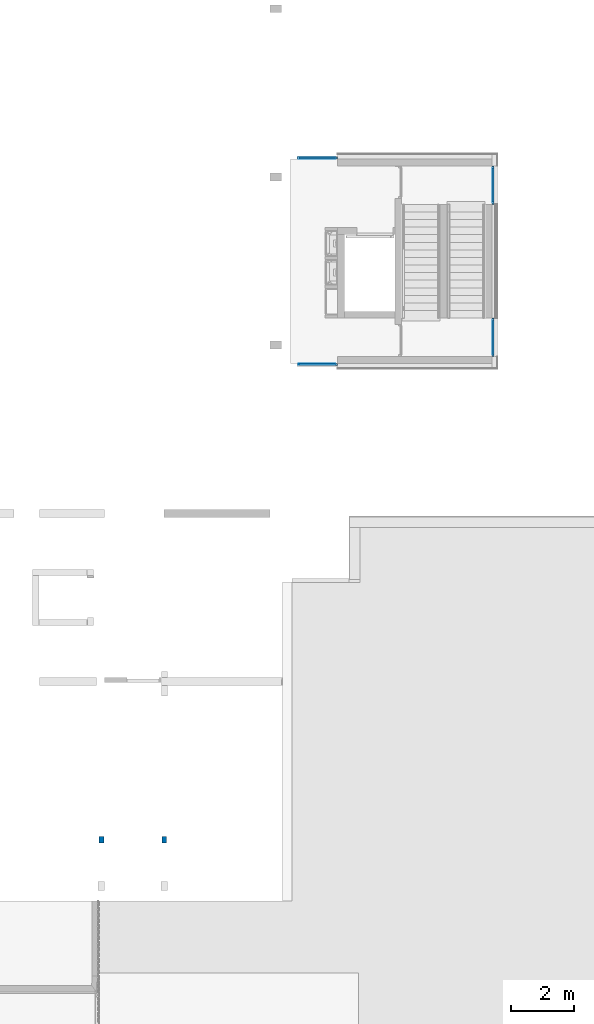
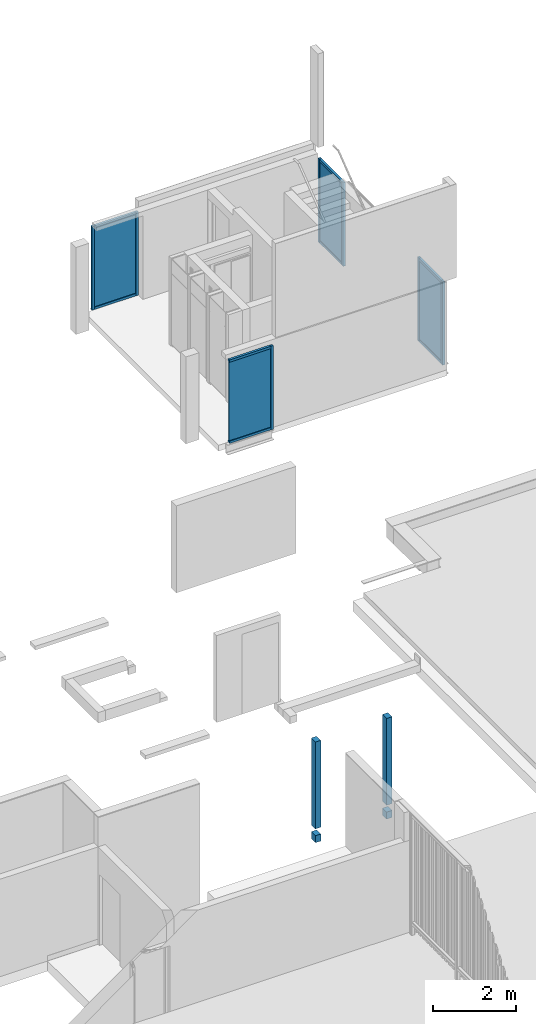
# One storey, part 1 of 22: 15 members, 4 plates, 2 columns, 4 elements without a shape of their own.
"""IFC2X3 building model written with IfcOpenShell, lengths in millimetres."""

from ifc_helpers import new_model, entity, si_unit, converted_unit, derived_unit, money_unit, direction, frame, origin_with_axes, place, context, subcontext, project, spatial, faceted_brep, source, transform, mapped, material, type_object, type_shapes, element, aggregate, save


model = new_model("IFC2X3")

# Units and contexts
model_context = context("Model", 3, precision=0.01, world=origin_with_axes(), true_north=direction((0.0, 1.0)))
body_context = subcontext(model_context, "Body", "Model", "MODEL_VIEW")
ifc_project = project(units=[si_unit("LENGTHUNIT", "METRE", prefix="MILLI"), si_unit("AREAUNIT", "SQUARE_METRE"), si_unit("VOLUMEUNIT", "CUBIC_METRE"), converted_unit("PLANEANGLEUNIT", "DEGREE", entity("IfcPlaneAngleMeasure", 0.0174532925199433), si_unit("PLANEANGLEUNIT", "RADIAN"), dimensions=[0, 0, 0, 0, 0, 0, 0]), money_unit("EUR"), converted_unit("TIMEUNIT", "Year", entity("IfcTimeMeasure", 31557600.0), si_unit("TIMEUNIT", "SECOND"), dimensions=[0, 0, 1, 0, 0, 0, 0]), si_unit("MASSUNIT", "GRAM", prefix="KILO"), si_unit("THERMODYNAMICTEMPERATUREUNIT", "DEGREE_CELSIUS"), si_unit("LUMINOUSINTENSITYUNIT", "LUMEN"), si_unit("ENERGYUNIT", "JOULE", prefix="MEGA"), derived_unit("THERMALCONDUCTANCEUNIT", [(si_unit("POWERUNIT", "WATT"), 1), (si_unit("LENGTHUNIT", "METRE"), -1), (si_unit("THERMODYNAMICTEMPERATUREUNIT", "KELVIN"), -1)]), derived_unit("SPECIFICHEATCAPACITYUNIT", [(si_unit("ENERGYUNIT", "JOULE"), 1), (si_unit("MASSUNIT", "GRAM", prefix="KILO"), -1), (si_unit("THERMODYNAMICTEMPERATUREUNIT", "KELVIN"), -1)]), derived_unit("MASSDENSITYUNIT", [(si_unit("MASSUNIT", "GRAM", prefix="KILO"), 1), (si_unit("VOLUMEUNIT", "CUBIC_METRE"), -1)])], contexts=[model_context])

# Site, building, storey
site_placement = place(None, origin_with_axes())
site = spatial("IfcSite", under=ifc_project, at=site_placement, Name="Site", CompositionType="ELEMENT")
building_placement = place(site_placement, origin_with_axes())
building = spatial("IfcBuilding", under=site, at=building_placement, Name="Naam gebouw", CompositionType="ELEMENT")
storey_placement = place(building_placement, frame((0.0, 0.0, 11150.0), z_axis=(0.0, 0.0, 1.0), x_axis=(1.0, 0.0, 0.0)))
storey = spatial("IfcBuildingStorey", under=building, at=storey_placement, Name="3e verdieping/dak N", CompositionType="ELEMENT", Elevation=11150.0)

# Columns
ifc_material_1 = material(Name="ALG - CONSTRUCTIEF")
column_type = type_object("IfcColumnType", Name="ALG - CONSTRUCTIEF 200 x 150", PredefinedType="COLUMN")
for number, where, z_axis, x_axis, name in (
    (1, (26189.99999999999, 17615.91242510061, -99.99999999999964), (0.0, 0.0, 1.0), (0.0, -1.0, 0.0), "_Kolom-x"),
    (2, (24200.0, 17615.91242510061, -99.99999999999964), (0.0, 0.0, 1.0), (0.0, -1.0, 0.0), "_Kolom-x"),
):
    element("IfcColumn", number, at=place(storey_placement, frame(where, z_axis=z_axis, x_axis=x_axis)), inside=storey, type_object=column_type, material=ifc_material_1, Name=name, ObjectType="COLUMN", context=body_context, shape_type="Brep", body=[
        faceted_brep([(-100.0000000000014, -74.99999999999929, 0.0), (-100.0000000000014, -74.99999999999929, 210.0000000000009), (-100.0000000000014, 74.99999999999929, 210.0000000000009), (-100.0000000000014, 74.99999999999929, 0.0), (100.0000000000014, -74.99999999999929, 0.0), (100.0000000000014, -74.99999999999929, 210.0000000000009), (100.0000000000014, 74.99999999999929, 210.0000000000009), (100.0000000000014, 74.99999999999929, 0.0)], [[[0, 1, 2, 3]], [[4, 5, 1, 0]], [[5, 6, 2, 1]], [[3, 2, 6, 7]], [[7, 4, 0, 3]], [[7, 6, 5, 4]]]),
        faceted_brep([(100.0000000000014, 74.99999999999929, 2980.0), (100.0000000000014, 74.99999999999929, 410.0000000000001), (-100.0000000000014, 74.99999999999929, 410.0000000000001), (-100.0000000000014, 74.99999999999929, 2980.0), (100.0000000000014, -74.99999999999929, 2980.0), (100.0000000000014, -74.99999999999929, 410.0000000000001), (-100.0000000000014, -74.99999999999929, 410.0000000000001), (-100.0000000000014, -74.99999999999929, 2980.0)], [[[0, 1, 2, 3]], [[4, 5, 1, 0]], [[5, 6, 2, 1]], [[3, 2, 6, 7]], [[0, 3, 7, 4]], [[7, 6, 5, 4]]]),
    ])

# Curtain wall, member
curtain_wall_type = type_object("IfcCurtainWallType", Name="Curtain Wall:21_CW_alu kozijn 070x065", PredefinedType="NOTDEFINED")
curtain_wall_1_placement = place(storey_placement, frame((0.0, 0.0, -11150.0), z_axis=(0.0, 0.0, 1.0), x_axis=(1.0, 0.0, 0.0)))
curtain_wall_1 = element("IfcCurtainWall", 3, at=curtain_wall_1_placement, inside=storey, type_object=curtain_wall_type, Name="Curtain Wall:21_CW_alu kozijn 070x065", ObjectType="Curtain Wall:21_CW_alu kozijn 070x065")
ifc_material_2 = material(Name="RAL 7024 - Grafietgrijs")
member_type_1 = type_object("IfcMemberType", Name="Rectangular Mullion:31_alu_070x065 RAL 7024", PredefinedType="MULLION")
shared_shape_1 = source(origin_with_axes(), body_context, "Body", "Brep", [
    faceted_brep([(32.49999999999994, 1080.0, 0.0), (32.49999999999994, 1080.0, 70.0), (32.50000000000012, 0.0, 70.0), (32.50000000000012, 0.0, 0.0), (-32.50000000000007, 1080.0, 0.0), (-32.50000000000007, 1080.0, 70.0), (-32.4999999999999, 0.0, 70.0), (-32.4999999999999, 0.0, 0.0)], [[[0, 1, 2, 3]], [[0, 4, 5, 1]], [[1, 5, 6, 2]], [[3, 2, 6, 7]], [[4, 0, 3, 7]], [[5, 4, 7, 6]]]),
])
type_shapes(member_type_1, [shared_shape_1])
member_1_placement = place(curtain_wall_1_placement, frame((36612.50000007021, 38895.91242629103, 11460.0), z_axis=(0.0, 0.0, 1.0), x_axis=(-1.0, 0.0, 0.0)))
member_1 = element("IfcMember", 4, at=member_1_placement, type_object=member_type_1, material=ifc_material_2, Name="Rectangular Mullion:31_alu_070x065 RAL 7024", ObjectType="MULLION", context=body_context, shape_type="MappedRepresentation", body=[
    mapped(shared_shape_1, transform((0.0, 0.0, 0.0))),
])

# Curtain wall, members
curtain_wall_2_placement = place(storey_placement, frame((0.0, 0.0, -11150.0), z_axis=(0.0, 0.0, 1.0), x_axis=(1.0, 0.0, 0.0)))
curtain_wall_2 = element("IfcCurtainWall", 5, at=curtain_wall_2_placement, inside=storey, type_object=curtain_wall_type, Name="Curtain Wall:21_CW_alu kozijn 070x065", ObjectType="Curtain Wall:21_CW_alu kozijn 070x065")
member_2_placement = place(curtain_wall_2_placement, frame((36612.50000004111, 34075.91242634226, 11460.0), z_axis=(0.0, 0.0, 1.0), x_axis=(-1.0, 0.0, 0.0)))
member_2 = element("IfcMember", 6, at=member_2_placement, type_object=member_type_1, material=ifc_material_2, Name="Rectangular Mullion:31_alu_070x065 RAL 7024", ObjectType="MULLION", context=body_context, shape_type="MappedRepresentation", body=[
    mapped(shared_shape_1, transform((0.0, 0.0, 0.0))),
])
member_type_2 = type_object("IfcMemberType", Name="Rectangular Mullion:31_alu_070x065 RAL 7024", PredefinedType="MULLION")
shared_shape_2 = source(origin_with_axes(), body_context, "Body", "Brep", [
    faceted_brep([(0.0, -32.5, 2470.0), (-70.0, -32.50000000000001, 2470.0), (-70.0, -32.50000000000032, 0.0), (0.0, -32.50000000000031, 0.0), (0.0, 32.50000000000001, 2470.0), (-70.0, 32.5, 2470.0), (-70.0, 32.49999999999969, 0.0), (0.0, 32.49999999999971, 0.0)], [[[0, 1, 2, 3]], [[0, 4, 5, 1]], [[1, 5, 6, 2]], [[3, 2, 6, 7]], [[4, 0, 3, 7]], [[5, 4, 7, 6]]]),
])
type_shapes(member_type_2, [shared_shape_2])
member_3_placement = place(curtain_wall_2_placement, frame((36612.50000004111, 32925.91242626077, 11460.0), z_axis=(0.0, 0.0, 1.0), x_axis=(0.0, -1.0, 0.0)))
member_3 = element("IfcMember", 7, at=member_3_placement, type_object=member_type_2, material=ifc_material_2, Name="Rectangular Mullion:31_alu_070x065 RAL 7024", ObjectType="MULLION", context=body_context, shape_type="MappedRepresentation", body=[
    mapped(shared_shape_2, transform((0.0, 0.0, 0.0))),
])

# Member
member_4_placement = place(curtain_wall_1_placement, frame((36612.50000001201, 37745.91242632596, 11460.0), z_axis=(0.0, 0.0, 1.0), x_axis=(0.0, -1.0, 0.0)))
member_4 = element("IfcMember", 8, at=member_4_placement, type_object=member_type_2, material=ifc_material_2, Name="Rectangular Mullion:31_alu_070x065 RAL 7024", ObjectType="MULLION", context=body_context, shape_type="MappedRepresentation", body=[
    mapped(shared_shape_2, transform((0.0, 0.0, 0.0))),
])

# Curtain wall, member
curtain_wall_3_placement = place(storey_placement, frame((0.0, 0.0, -11150.0), z_axis=(0.0, 0.0, 1.0), x_axis=(1.0, 0.0, 0.0)))
curtain_wall_3 = element("IfcCurtainWall", 9, at=curtain_wall_3_placement, inside=storey, type_object=curtain_wall_type, Name="Curtain Wall:21_CW_alu kozijn 070x065", ObjectType="Curtain Wall:21_CW_alu kozijn 070x065")
member_type_3 = type_object("IfcMemberType", Name="Rectangular Mullion:31_alu_070x065 RAL 7024", PredefinedType="MULLION")
type_shapes(member_type_3, [shared_shape_2])
member_5_placement = place(curtain_wall_3_placement, frame((30391.00000005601, 39212.4124263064, 11460.0), z_axis=(0.0, 0.0, 1.0), x_axis=(-1.0, 0.0, 0.0)))
member_5 = element("IfcMember", 10, at=member_5_placement, type_object=member_type_3, material=ifc_material_2, Name="Rectangular Mullion:31_alu_070x065 RAL 7024", ObjectType="MULLION", context=body_context, shape_type="MappedRepresentation", body=[
    mapped(shared_shape_2, transform((0.0, 0.0, 0.0))),
])

# Member
member_type_4 = type_object("IfcMemberType", Name="Rectangular Mullion:31_alu_070x065 RAL 7024", PredefinedType="MULLION")
shared_shape_3 = source(origin_with_axes(), body_context, "Body", "Brep", [
    faceted_brep([(0.0, 32.5, -2470.0), (-70.0, 32.50000000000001, -2470.0), (-70.0, 32.50000000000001, 0.0), (0.0, 32.5, 0.0), (0.0, -32.50000000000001, -2470.0), (-70.0, -32.5, -2470.0), (-70.0, -32.5, 0.0), (0.0, -32.50000000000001, 0.0)], [[[0, 1, 2, 3]], [[0, 4, 5, 1]], [[1, 5, 6, 2]], [[3, 2, 6, 7]], [[4, 0, 3, 7]], [[5, 4, 7, 6]]]),
])
type_shapes(member_type_4, [shared_shape_3])
member_6_placement = place(curtain_wall_2_placement, frame((36612.50000001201, 34145.91242634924, 13930.0), z_axis=(0.0, 0.0, 1.0), x_axis=(0.0, 1.0, 0.0)))
member_6 = element("IfcMember", 11, at=member_6_placement, type_object=member_type_4, material=ifc_material_2, Name="Rectangular Mullion:31_alu_070x065 RAL 7024", ObjectType="MULLION", context=body_context, shape_type="MappedRepresentation", body=[
    mapped(shared_shape_3, transform((0.0, 0.0, 0.0))),
])

member_7_placement = place(curtain_wall_1_placement, frame((36612.50000004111, 38965.91242629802, 13930.0), z_axis=(0.0, 0.0, 1.0), x_axis=(0.0, 1.0, 0.0)))
member_7 = element("IfcMember", 12, at=member_7_placement, type_object=member_type_4, material=ifc_material_2, Name="Rectangular Mullion:31_alu_070x065 RAL 7024", ObjectType="MULLION", context=body_context, shape_type="MappedRepresentation", body=[
    mapped(shared_shape_3, transform((0.0, 0.0, 0.0))),
])

member_type_5 = type_object("IfcMemberType", Name="Rectangular Mullion:31_alu_070x065 RAL 7024", PredefinedType="MULLION")
type_shapes(member_type_5, [shared_shape_3])
member_8_placement = place(curtain_wall_3_placement, frame((31685.01028266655, 39212.4124263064, 13930.0), z_axis=(0.0, 0.0, 1.0), x_axis=(1.0, 0.0, 0.0)))
member_8 = element("IfcMember", 13, at=member_8_placement, type_object=member_type_5, material=ifc_material_2, Name="Rectangular Mullion:31_alu_070x065 RAL 7024", ObjectType="MULLION", context=body_context, shape_type="MappedRepresentation", body=[
    mapped(shared_shape_3, transform((0.0, 0.0, 0.0))),
])

# Curtain wall, member
curtain_wall_4_placement = place(storey_placement, frame((0.0, 0.0, -11150.0), z_axis=(0.0, 0.0, 1.0), x_axis=(1.0, 0.0, 0.0)))
curtain_wall_4 = element("IfcCurtainWall", 14, at=curtain_wall_4_placement, inside=storey, type_object=curtain_wall_type, Name="Curtain Wall:21_CW_alu kozijn 070x065", ObjectType="Curtain Wall:21_CW_alu kozijn 070x065")
member_9_placement = place(curtain_wall_4_placement, frame((31685.01028266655, 32679.41242631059, 13930.0), z_axis=(0.0, 0.0, 1.0), x_axis=(1.0, 0.0, 0.0)))
member_9 = element("IfcMember", 15, at=member_9_placement, type_object=member_type_4, material=ifc_material_2, Name="Rectangular Mullion:31_alu_070x065 RAL 7024", ObjectType="MULLION", context=body_context, shape_type="MappedRepresentation", body=[
    mapped(shared_shape_3, transform((0.0, 0.0, 0.0))),
])

# Member
member_type_6 = type_object("IfcMemberType", Name="Rectangular Mullion:31_alu_070x065 RAL 7024", PredefinedType="MULLION")
shared_shape_4 = source(origin_with_axes(), body_context, "Body", "Brep", [
    faceted_brep([(32.50000000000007, -1080.0, 0.0), (32.50000000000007, -1080.0, -70.0), (32.4999999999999, 0.0, -70.0), (32.4999999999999, 0.0, 0.0), (-32.49999999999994, -1080.0, 0.0), (-32.49999999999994, -1080.0, -70.0), (-32.50000000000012, 0.0, -70.0), (-32.50000000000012, 0.0, 0.0)], [[[0, 1, 2, 3]], [[0, 4, 5, 1]], [[1, 5, 6, 2]], [[3, 2, 6, 7]], [[4, 0, 3, 7]], [[5, 4, 7, 6]]]),
])
type_shapes(member_type_6, [shared_shape_4])
member_10_placement = place(curtain_wall_2_placement, frame((36612.50000004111, 32995.91242626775, 13930.0), z_axis=(0.0, 0.0, 1.0), x_axis=(-1.0, 0.0, 0.0)))
member_10 = element("IfcMember", 16, at=member_10_placement, type_object=member_type_6, material=ifc_material_2, Name="Rectangular Mullion:31_alu_070x065 RAL 7024", ObjectType="MULLION", context=body_context, shape_type="MappedRepresentation", body=[
    mapped(shared_shape_4, transform((0.0, 0.0, 0.0))),
])

member_11_placement = place(curtain_wall_1_placement, frame((36612.50000001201, 37815.91242633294, 13930.0), z_axis=(0.0, 0.0, 1.0), x_axis=(-1.0, 0.0, 0.0)))
member_11 = element("IfcMember", 17, at=member_11_placement, type_object=member_type_6, material=ifc_material_2, Name="Rectangular Mullion:31_alu_070x065 RAL 7024", ObjectType="MULLION", context=body_context, shape_type="MappedRepresentation", body=[
    mapped(shared_shape_4, transform((0.0, 0.0, 0.0))),
])

member_type_7 = type_object("IfcMemberType", Name="Rectangular Mullion:31_alu_070x065 RAL 7024", PredefinedType="MULLION")
shared_shape_5 = source(origin_with_axes(), body_context, "Body", "Brep", [
    faceted_brep([(32.49999999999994, 1154.0, 0.0), (32.49999999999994, 1154.0, 70.0), (32.50000000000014, -2.993161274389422e-10, 70.0), (32.50000000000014, -2.993161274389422e-10, 0.0), (-32.50000000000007, 1154.0, 0.0), (-32.50000000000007, 1154.0, 70.0), (-32.49999999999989, -2.993161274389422e-10, 70.0), (-32.49999999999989, -2.993161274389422e-10, 0.0)], [[[0, 1, 2, 3]], [[0, 4, 5, 1]], [[1, 5, 6, 2]], [[3, 2, 6, 7]], [[4, 0, 3, 7]], [[5, 4, 7, 6]]]),
])
type_shapes(member_type_7, [shared_shape_5])
member_12_placement = place(curtain_wall_3_placement, frame((31615.01028265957, 39212.4124263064, 11460.0), z_axis=(0.0, 0.0, 1.0), x_axis=(0.0, 1.0, 0.0)))
member_12 = element("IfcMember", 18, at=member_12_placement, type_object=member_type_7, material=ifc_material_2, Name="Rectangular Mullion:31_alu_070x065 RAL 7024", ObjectType="MULLION", context=body_context, shape_type="MappedRepresentation", body=[
    mapped(shared_shape_5, transform((0.0, 0.0, 0.0))),
])

member_type_8 = type_object("IfcMemberType", Name="Rectangular Mullion:31_alu_070x065 RAL 7024", PredefinedType="MULLION")
type_shapes(member_type_8, [shared_shape_5])
member_13_placement = place(curtain_wall_4_placement, frame((31615.01028263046, 32679.41242631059, 11460.0), z_axis=(0.0, 0.0, 1.0), x_axis=(0.0, 1.0, 0.0)))
member_13 = element("IfcMember", 19, at=member_13_placement, type_object=member_type_8, material=ifc_material_2, Name="Rectangular Mullion:31_alu_070x065 RAL 7024", ObjectType="MULLION", context=body_context, shape_type="MappedRepresentation", body=[
    mapped(shared_shape_5, transform((0.0, 0.0, 0.0))),
])

member_type_9 = type_object("IfcMemberType", Name="Rectangular Mullion:31_alu_070x065 RAL 7024", PredefinedType="MULLION")
shared_shape_6 = source(origin_with_axes(), body_context, "Body", "Brep", [
    faceted_brep([(32.50000000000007, -1154.0, 0.0), (32.50000000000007, -1154.0, -70.0), (32.49999999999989, 2.993161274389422e-10, -70.0), (32.49999999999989, 2.993161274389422e-10, 0.0), (-32.49999999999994, -1154.0, 0.0), (-32.49999999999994, -1154.0, -70.0), (-32.50000000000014, 2.993161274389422e-10, -70.0), (-32.50000000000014, 2.993161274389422e-10, 0.0)], [[[0, 1, 2, 3]], [[0, 4, 5, 1]], [[1, 5, 6, 2]], [[3, 2, 6, 7]], [[4, 0, 3, 7]], [[5, 4, 7, 6]]]),
])
type_shapes(member_type_9, [shared_shape_6])
member_14_placement = place(curtain_wall_3_placement, frame((30461.00000003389, 39212.41242624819, 13930.0), z_axis=(0.0, 0.0, 1.0), x_axis=(0.0, 1.0, 0.0)))
member_14 = element("IfcMember", 20, at=member_14_placement, type_object=member_type_9, material=ifc_material_2, Name="Rectangular Mullion:31_alu_070x065 RAL 7024", ObjectType="MULLION", context=body_context, shape_type="MappedRepresentation", body=[
    mapped(shared_shape_6, transform((0.0, 0.0, 0.0))),
])

member_type_10 = type_object("IfcMemberType", Name="Rectangular Mullion:31_alu_070x065 RAL 7024", PredefinedType="MULLION")
type_shapes(member_type_10, [shared_shape_6])
member_15_placement = place(curtain_wall_4_placement, frame((30461.00000003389, 32679.41242631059, 13930.0), z_axis=(0.0, 0.0, 1.0), x_axis=(0.0, 1.0, 0.0)))
member_15 = element("IfcMember", 21, at=member_15_placement, type_object=member_type_10, material=ifc_material_2, Name="Rectangular Mullion:31_alu_070x065 RAL 7024", ObjectType="MULLION", context=body_context, shape_type="MappedRepresentation", body=[
    mapped(shared_shape_6, transform((0.0, 0.0, 0.0))),
])

# Plate
ifc_material_3 = material(Name="Glass")
plate_type_1 = type_object("IfcPlateType", Name="System Panel:31_CWP_alu glas_2", PredefinedType="CURTAIN_PANEL")
shared_shape_7 = source(origin_with_axes(), body_context, "Body", "Brep", [
    faceted_brep([(540.0000000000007, -12.00000000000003, 0.0), (540.0000000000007, 11.99999999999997, 0.0), (540.0000000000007, 11.99999999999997, 2330.000000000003), (540.0000000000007, -12.00000000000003, 2330.000000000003), (-540.0000000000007, -11.99999999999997, 0.0), (-540.0000000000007, 12.00000000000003, 0.0), (-540.0000000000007, 12.00000000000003, 2330.000000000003), (-540.0000000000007, -11.99999999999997, 2330.000000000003)], [[[0, 1, 2, 3]], [[0, 4, 5, 1]], [[1, 5, 6, 2]], [[3, 2, 6, 7]], [[4, 0, 3, 7]], [[5, 4, 7, 6]]]),
])
type_shapes(plate_type_1, [shared_shape_7])
plate_1_placement = place(curtain_wall_2_placement, frame((36612.50000004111, 33535.912426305, 11530.0), z_axis=(0.0, 0.0, 1.0), x_axis=(0.0, -1.0, 0.0)))
plate_1 = element("IfcPlate", 22, at=plate_1_placement, type_object=plate_type_1, material=ifc_material_3, Name="System Panel:31_CWP_alu glas_2", ObjectType="CURTAIN_PANEL", context=body_context, shape_type="MappedRepresentation", body=[
    mapped(shared_shape_7, transform((0.0, 0.0, 0.0))),
])

aggregate(curtain_wall_2, [member_3, plate_1, member_6, member_10, member_2])

plate_2_placement = place(curtain_wall_1_placement, frame((36612.50000001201, 38355.91242625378, 11530.0), z_axis=(0.0, 0.0, 1.0), x_axis=(0.0, -1.0, 0.0)))
plate_2 = element("IfcPlate", 23, at=plate_2_placement, type_object=plate_type_1, material=ifc_material_3, Name="System Panel:31_CWP_alu glas_2", ObjectType="CURTAIN_PANEL", context=body_context, shape_type="MappedRepresentation", body=[
    mapped(shared_shape_7, transform((0.0, 0.0, 0.0))),
])

aggregate(curtain_wall_1, [member_1, plate_2, member_7, member_4, member_11])

plate_type_2 = type_object("IfcPlateType", Name="System Panel:31_CWP_alu glas_2", PredefinedType="CURTAIN_PANEL")
shared_shape_8 = source(origin_with_axes(), body_context, "Body", "Brep", [
    faceted_brep([(577.0051413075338, -12.00000000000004, 0.0), (577.0051413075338, 11.99999999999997, 0.0), (577.0051413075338, 11.99999999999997, 2330.000000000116), (577.0051413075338, -12.00000000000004, 2330.000000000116), (-577.0051413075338, -11.99999999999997, 0.0), (-577.0051413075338, 12.00000000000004, 0.0), (-577.0051413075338, 12.00000000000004, 2330.000000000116), (-577.0051413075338, -11.99999999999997, 2330.000000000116)], [[[0, 1, 2, 3]], [[0, 4, 5, 1]], [[1, 5, 6, 2]], [[3, 2, 6, 7]], [[4, 0, 3, 7]], [[5, 4, 7, 6]]]),
])
type_shapes(plate_type_2, [shared_shape_8])
plate_3_placement = place(curtain_wall_3_placement, frame((31038.00514136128, 39212.4124263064, 11530.0), z_axis=(0.0, 0.0, 1.0), x_axis=(-1.0, 0.0, 0.0)))
plate_3 = element("IfcPlate", 24, at=plate_3_placement, type_object=plate_type_2, material=ifc_material_3, Name="System Panel:31_CWP_alu glas_2", ObjectType="CURTAIN_PANEL", context=body_context, shape_type="MappedRepresentation", body=[
    mapped(shared_shape_8, transform((0.0, 0.0, 0.0))),
])

aggregate(curtain_wall_3, [member_5, member_8, member_14, member_12, plate_3])

plate_type_3 = type_object("IfcPlateType", Name="System Panel:31_CWP_alu glas_2", PredefinedType="CURTAIN_PANEL")
type_shapes(plate_type_3, [shared_shape_8])
plate_4_placement = place(curtain_wall_4_placement, frame((31038.00514136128, 32679.41242631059, 11530.0), z_axis=(0.0, 0.0, 1.0), x_axis=(-1.0, 0.0, 0.0)))
plate_4 = element("IfcPlate", 25, at=plate_4_placement, type_object=plate_type_3, material=ifc_material_3, Name="System Panel:31_CWP_alu glas_2", ObjectType="CURTAIN_PANEL", context=body_context, shape_type="MappedRepresentation", body=[
    mapped(shared_shape_8, transform((0.0, 0.0, 0.0))),
])

aggregate(curtain_wall_4, [member_9, member_15, plate_4, member_13])

save(model, "model.ifc")
